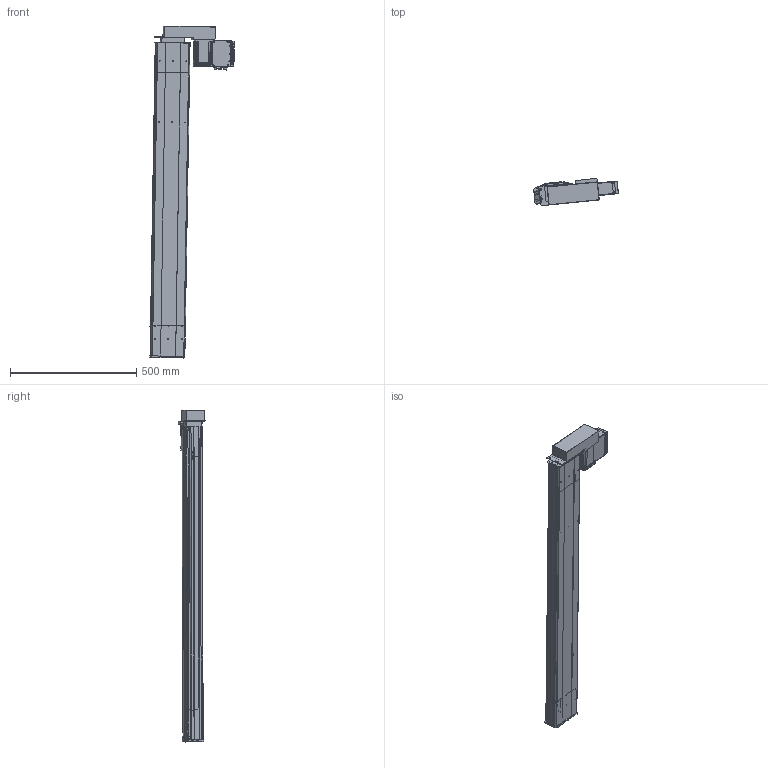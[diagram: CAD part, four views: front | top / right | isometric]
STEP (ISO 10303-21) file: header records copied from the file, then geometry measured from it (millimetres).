
FILE_DESCRIPTION (( 'STEP AP203' ), '1' );
FILE_NAME ('D14 TSH M4 BL L10 S1000.STEP', '2012-10-11T07:55:16', ( '' ), ( '' ), 'SwSTEP 2.0', 'SolidWorks 2010', '' );
FILE_SCHEMA (( 'CONFIG_CONTROL_DESIGN' ));
Length unit declared in the file: millimetre
Products named in the file (22): Connecteur rond D10 3cts_2; Moteur 70BLDC90A_2; Colonnette_2; Radiateur_2; Pièce1000; plaque de bout head D14 BL; D14 TSH M4 BL L10 S1000; corp head D14_Default_2; corpl tail D14_Default_2; Moteur_2; T犨e contre le moteur_2; Sub D 9cts_2; Tôle Arrière_2; Couvercle_2; Tôle latérale_2; Connecteur rond D12 4cts_2; Vis TF 3 torkx_2; plaque de  bout tail D14_Default_2; couvercle D14 head_Default_2; Pièce1002; plaque de  bout head D14 MD_Default_2; T犨e fond_2
Assembly tree (49 placements, depth 3):
  D14 TSH M4 BL L10 S1000
    Pièce1002
    plaque de  bout head D14 MD_Default_2
    couvercle D14 head_Default_2  x2
    Pièce1000
    plaque de  bout tail D14_Default_2
    plaque de bout head D14 BL
    corp head D14_Default_2
    corpl tail D14_Default_2
    Moteur_2
      Vis TF 3 torkx_2  x26
      T犨e contre le moteur_2
      Connecteur rond D10 3cts_2  x2
      Radiateur_2
      Tôle latérale_2  x2
      Colonnette_2
      Tôle Arrière_2
      Sub D 9cts_2
      Couvercle_2
      Moteur 70BLDC90A_2
      Connecteur rond D12 4cts_2
      T犨e fond_2
Bounding box: 335.17 x 107.74 x 1313.65 mm (x, y, z)
Volume: 4807639.1 mm3; surface area: 1476513.9 mm2
Topology: 70 solids, 70 shells, 2406 faces, 6282 edges, 4141 vertices
Faces by surface type: plane 1299, cylinder 843, cone 134, bspline 130
Entity records: 64484 total; most frequent: CARTESIAN_POINT 20825, ORIENTED_EDGE 8522, DIRECTION 8148, EDGE_CURVE 4261, VECTOR 2848, LINE 2848, VERTEX_POINT 2815, AXIS2_PLACEMENT_3D 2650
